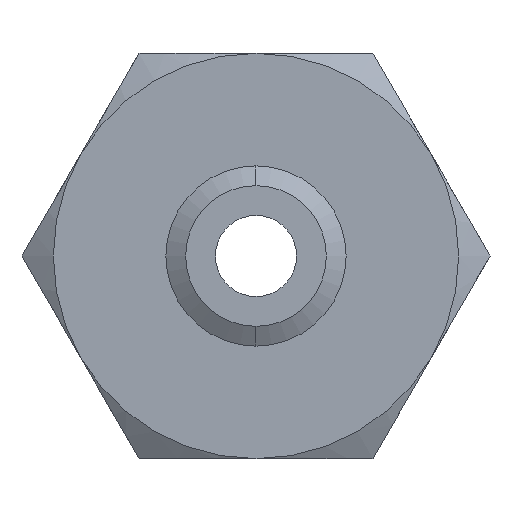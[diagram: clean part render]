
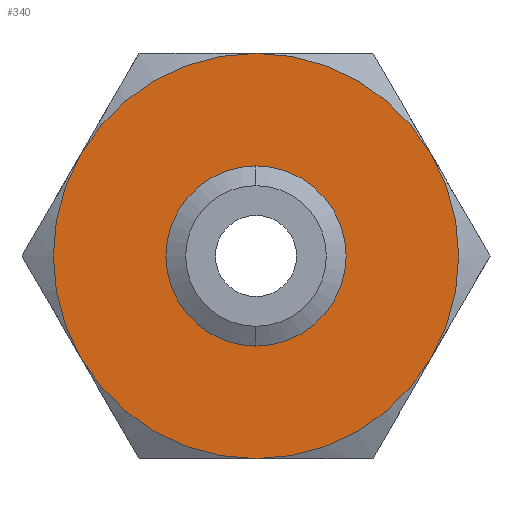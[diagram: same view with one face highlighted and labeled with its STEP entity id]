
A CAD part, front view. The second image highlights one B-rep face of the part: STEP entity #340.
In plain terms, the highlighted planar face has unit normal (0, -1, 0).
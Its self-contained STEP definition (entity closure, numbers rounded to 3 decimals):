
#31 = VERTEX_POINT ( 'NONE', #458 ) ;
#32 = VERTEX_POINT ( 'NONE', #457 ) ;
#37 = EDGE_CURVE ( 'NONE', #31, #32, #508, .T. ) ;
#268 = VERTEX_POINT ( 'NONE', #939 ) ;
#269 = ORIENTED_EDGE ( 'NONE', *, *, #270, .F. ) ;
#270 = EDGE_CURVE ( 'NONE', #271, #344, #938, .T. ) ;
#271 = VERTEX_POINT ( 'NONE', #933 ) ;
#272 = ORIENTED_EDGE ( 'NONE', *, *, #273, .F. ) ;
#273 = EDGE_CURVE ( 'NONE', #274, #271, #931, .T. ) ;
#274 = VERTEX_POINT ( 'NONE', #932 ) ;
#275 = ORIENTED_EDGE ( 'NONE', *, *, #276, .F. ) ;
#276 = EDGE_CURVE ( 'NONE', #277, #274, #926, .T. ) ;
#277 = VERTEX_POINT ( 'NONE', #921 ) ;
#278 = ORIENTED_EDGE ( 'NONE', *, *, #321, .F. ) ;
#313 = ORIENTED_EDGE ( 'NONE', *, *, #37, .F. ) ;
#314 = ORIENTED_EDGE ( 'NONE', *, *, #315, .F. ) ;
#315 = EDGE_CURVE ( 'NONE', #32, #31, #987, .T. ) ;
#321 = EDGE_CURVE ( 'NONE', #322, #277, #978, .T. ) ;
#322 = VERTEX_POINT ( 'NONE', #1027 ) ;
#323 = ORIENTED_EDGE ( 'NONE', *, *, #324, .F. ) ;
#324 = EDGE_CURVE ( 'NONE', #268, #322, #1026, .T. ) ;
#325 = EDGE_LOOP ( 'NONE', ( #313, #314 ) ) ;
#340 = ADVANCED_FACE ( 'NONE', ( #1052, #1051 ), #1050, .F. ) ;
#341 = EDGE_LOOP ( 'NONE', ( #342, #269, #272, #275, #278, #323 ) ) ;
#342 = ORIENTED_EDGE ( 'NONE', *, *, #343, .F. ) ;
#343 = EDGE_CURVE ( 'NONE', #344, #268, #1047, .T. ) ;
#344 = VERTEX_POINT ( 'NONE', #1040 ) ;
#457 = CARTESIAN_POINT ( 'NONE',  ( 0., 0., 8.673 ) ) ;
#458 = CARTESIAN_POINT ( 'NONE',  ( 0., 0., -8.673 ) ) ;
#504 = DIRECTION ( 'NONE',  ( 0., 0., -1. ) ) ;
#505 = DIRECTION ( 'NONE',  ( 0., -1., 0. ) ) ;
#506 = CARTESIAN_POINT ( 'NONE',  ( 0., 0., 0. ) ) ;
#507 = AXIS2_PLACEMENT_3D ( 'NONE', #506, #505, #504 ) ;
#508 = CIRCLE ( 'NONE', #507, 8.673 ) ;
#921 = CARTESIAN_POINT ( 'NONE',  ( 0., 0., -25. ) ) ;
#922 = DIRECTION ( 'NONE',  ( 0., 0., 1. ) ) ;
#923 = DIRECTION ( 'NONE',  ( 0., 1., 0. ) ) ;
#924 = CARTESIAN_POINT ( 'NONE',  ( 0., 0., 0. ) ) ;
#925 = AXIS2_PLACEMENT_3D ( 'NONE', #924, #923, #922 ) ;
#926 = CIRCLE ( 'NONE', #925, 25. ) ;
#927 = DIRECTION ( 'NONE',  ( 0., 0., 1. ) ) ;
#928 = DIRECTION ( 'NONE',  ( 0., 1., 0. ) ) ;
#929 = CARTESIAN_POINT ( 'NONE',  ( 0., 0., 0. ) ) ;
#930 = AXIS2_PLACEMENT_3D ( 'NONE', #929, #928, #927 ) ;
#931 = CIRCLE ( 'NONE', #930, 25. ) ;
#932 = CARTESIAN_POINT ( 'NONE',  ( -21.651, 0., -12.5 ) ) ;
#933 = CARTESIAN_POINT ( 'NONE',  ( -21.651, 0., 12.5 ) ) ;
#934 = DIRECTION ( 'NONE',  ( 0., 0., 1. ) ) ;
#935 = DIRECTION ( 'NONE',  ( 0., 1., 0. ) ) ;
#936 = CARTESIAN_POINT ( 'NONE',  ( 0., 0., 0. ) ) ;
#937 = AXIS2_PLACEMENT_3D ( 'NONE', #936, #935, #934 ) ;
#938 = CIRCLE ( 'NONE', #937, 25. ) ;
#939 = CARTESIAN_POINT ( 'NONE',  ( 21.651, 0., 12.5 ) ) ;
#978 = CIRCLE ( 'NONE', #1031, 25. ) ;
#983 = DIRECTION ( 'NONE',  ( 0., 0., -1. ) ) ;
#984 = DIRECTION ( 'NONE',  ( 0., -1., 0. ) ) ;
#985 = CARTESIAN_POINT ( 'NONE',  ( 0., 0., 0. ) ) ;
#986 = AXIS2_PLACEMENT_3D ( 'NONE', #985, #984, #983 ) ;
#987 = CIRCLE ( 'NONE', #986, 8.673 ) ;
#1022 = DIRECTION ( 'NONE',  ( 0., 0., 1. ) ) ;
#1023 = DIRECTION ( 'NONE',  ( 0., 1., 0. ) ) ;
#1024 = CARTESIAN_POINT ( 'NONE',  ( 0., 0., 0. ) ) ;
#1025 = AXIS2_PLACEMENT_3D ( 'NONE', #1024, #1023, #1022 ) ;
#1026 = CIRCLE ( 'NONE', #1025, 25. ) ;
#1027 = CARTESIAN_POINT ( 'NONE',  ( 21.651, 0., -12.5 ) ) ;
#1028 = DIRECTION ( 'NONE',  ( 0., 0., 1. ) ) ;
#1029 = DIRECTION ( 'NONE',  ( 0., 1., 0. ) ) ;
#1030 = CARTESIAN_POINT ( 'NONE',  ( 0., 0., 0. ) ) ;
#1031 = AXIS2_PLACEMENT_3D ( 'NONE', #1030, #1029, #1028 ) ;
#1040 = CARTESIAN_POINT ( 'NONE',  ( 0., 0., 25. ) ) ;
#1041 = DIRECTION ( 'NONE',  ( 0., 0., 1. ) ) ;
#1042 = DIRECTION ( 'NONE',  ( 0., 1., 0. ) ) ;
#1043 = CARTESIAN_POINT ( 'NONE',  ( 0., 0., 0. ) ) ;
#1044 = AXIS2_PLACEMENT_3D ( 'NONE', #1043, #1042, #1041 ) ;
#1045 = DIRECTION ( 'NONE',  ( 0., 0., 1. ) ) ;
#1046 = DIRECTION ( 'NONE',  ( 0., 1., 0. ) ) ;
#1047 = CIRCLE ( 'NONE', #1044, 25. ) ;
#1048 = CARTESIAN_POINT ( 'NONE',  ( 14.434, 0., -25. ) ) ;
#1049 = AXIS2_PLACEMENT_3D ( 'NONE', #1048, #1046, #1045 ) ;
#1050 = PLANE ( 'NONE',  #1049 ) ;
#1051 = FACE_BOUND ( 'NONE', #325, .T. ) ;
#1052 = FACE_OUTER_BOUND ( 'NONE', #341, .T. ) ;
